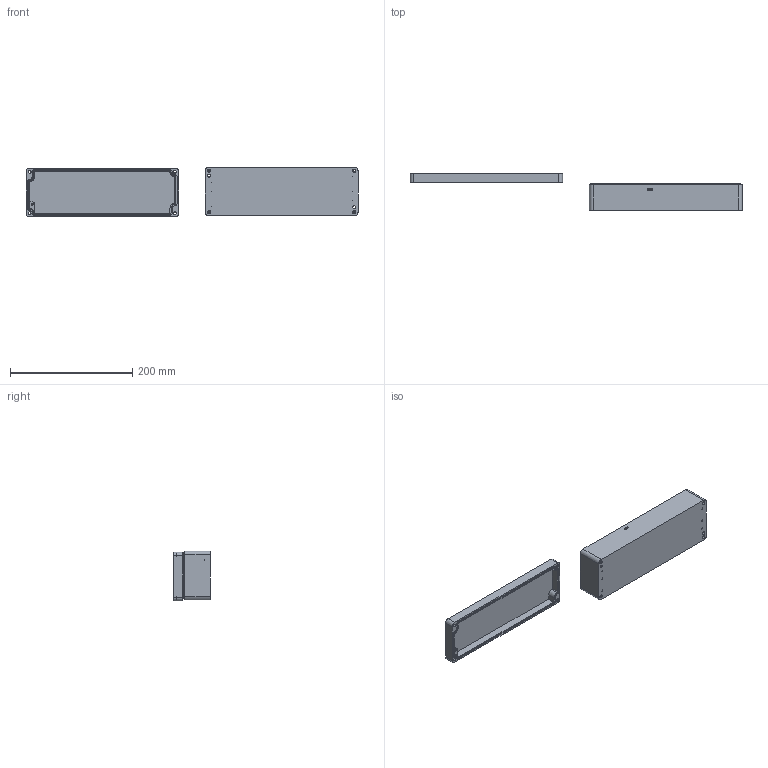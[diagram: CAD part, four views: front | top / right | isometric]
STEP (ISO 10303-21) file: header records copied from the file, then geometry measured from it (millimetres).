
FILE_DESCRIPTION (( 'STEP AP203' ), '1' );
FILE_NAME ('ZX-AL-082505_装配体.STEP', '2022-01-24T08:00:06', ( '微软用户' ), ( '微软中国' ), 'SwSTEP 2.0', 'SolidWorks 2020', '' );
FILE_SCHEMA (( 'CONFIG_CONTROL_DESIGN' ));
Length unit declared in the file: millimetre
Products named in the file (3): ZX-AL-082505_蚾饜极; ZX-AL-082505_狟; ZX-AL-082505_奻
Assembly tree (2 placements, depth 2):
  ZX-AL-082505_蚾饜极
    ZX-AL-082505_狟
    ZX-AL-082505_奻
Bounding box: 544.13 x 60.18 x 81.74 mm (x, y, z)
Volume: 280469.9 mm3; surface area: 158194.7 mm2
Topology: 2 solids, 2 shells, 579 faces, 1583 edges, 1032 vertices
Faces by surface type: plane 283, cylinder 131, bspline 123, cone 42
Entity records: 24098 total; most frequent: CARTESIAN_POINT 9760, ORIENTED_EDGE 3130, DIRECTION 2529, EDGE_CURVE 1565, VERTEX_POINT 1032, VECTOR 1031, LINE 1031, AXIS2_PLACEMENT_3D 749
